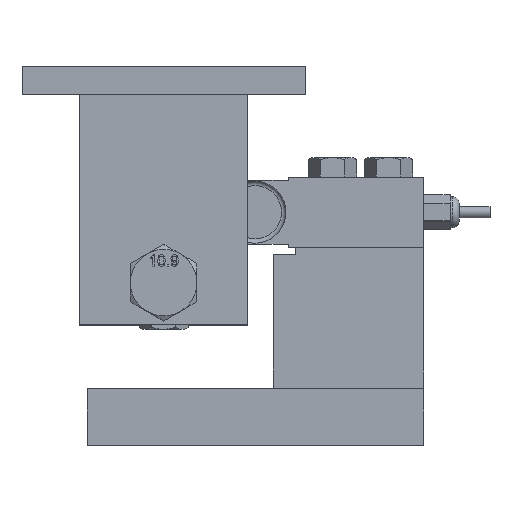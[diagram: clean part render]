
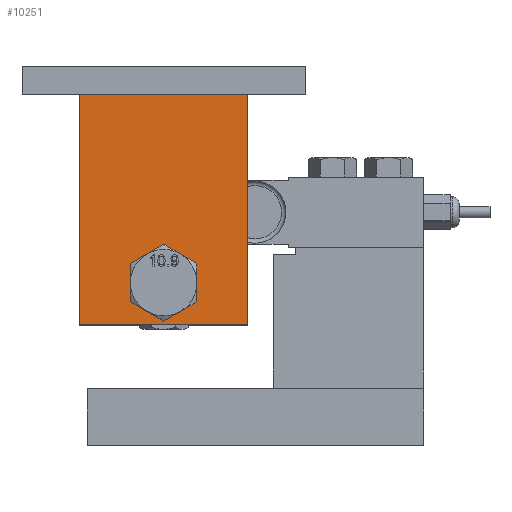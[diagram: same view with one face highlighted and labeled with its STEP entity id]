
A CAD part, top view. The second image highlights one B-rep face of the part: STEP entity #10251.
In plain terms, the highlighted planar face has unit normal (0, 0, 1).
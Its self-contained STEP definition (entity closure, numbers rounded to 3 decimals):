
#433=FACE_BOUND('',#1720,.T.);
#524=PLANE('',#10999);
#701=CIRCLE('',#10994,10.);
#1091=FACE_OUTER_BOUND('',#1719,.T.);
#1719=EDGE_LOOP('',(#8048,#8049,#8050,#8051));
#1720=EDGE_LOOP('',(#8052));
#2917=LINE('',#30697,#3521);
#2934=LINE('',#30744,#3538);
#2937=LINE('',#30750,#3541);
#2940=LINE('',#30754,#3544);
#3521=VECTOR('',#12344,10.);
#3538=VECTOR('',#12395,10.);
#3541=VECTOR('',#12400,10.);
#3544=VECTOR('',#12405,10.);
#4350=VERTEX_POINT('',#30694);
#4351=VERTEX_POINT('',#30696);
#4361=VERTEX_POINT('',#30735);
#4364=VERTEX_POINT('',#30743);
#4366=VERTEX_POINT('',#30749);
#5648=EDGE_CURVE('',#4351,#4350,#2917,.T.);
#5667=EDGE_CURVE('',#4361,#4361,#701,.T.);
#5671=EDGE_CURVE('',#4364,#4351,#2934,.T.);
#5674=EDGE_CURVE('',#4366,#4364,#2937,.T.);
#5677=EDGE_CURVE('',#4350,#4366,#2940,.T.);
#8048=ORIENTED_EDGE('',*,*,#5677,.T.);
#8049=ORIENTED_EDGE('',*,*,#5674,.T.);
#8050=ORIENTED_EDGE('',*,*,#5671,.T.);
#8051=ORIENTED_EDGE('',*,*,#5648,.T.);
#8052=ORIENTED_EDGE('',*,*,#5667,.T.);
#10251=ADVANCED_FACE('',(#1091,#433),#524,.T.);
#10994=AXIS2_PLACEMENT_3D('',#30736,#12387,#12388);
#10999=AXIS2_PLACEMENT_3D('',#30755,#12406,#12407);
#12344=DIRECTION('',(-1.,0.,0.));
#12387=DIRECTION('center_axis',(0.,0.,-1.));
#12388=DIRECTION('ref_axis',(1.,0.,0.));
#12395=DIRECTION('',(0.,1.,0.));
#12400=DIRECTION('',(1.,0.,0.));
#12405=DIRECTION('',(0.,-1.,0.));
#12406=DIRECTION('center_axis',(0.,0.,1.));
#12407=DIRECTION('ref_axis',(1.,0.,0.));
#30694=CARTESIAN_POINT('',(-79.4,158.4,41.7));
#30696=CARTESIAN_POINT('',(-3.4,158.4,41.7));
#30697=CARTESIAN_POINT('',(-3.4,158.4,41.7));
#30735=CARTESIAN_POINT('',(-51.4,73.4,41.7));
#30736=CARTESIAN_POINT('Origin',(-41.4,73.4,41.7));
#30743=CARTESIAN_POINT('',(-3.4,54.4,41.7));
#30744=CARTESIAN_POINT('',(-3.4,54.4,41.7));
#30749=CARTESIAN_POINT('',(-79.4,54.4,41.7));
#30750=CARTESIAN_POINT('',(-79.4,54.4,41.7));
#30754=CARTESIAN_POINT('',(-79.4,158.4,41.7));
#30755=CARTESIAN_POINT('Origin',(-41.4,106.4,41.7));
